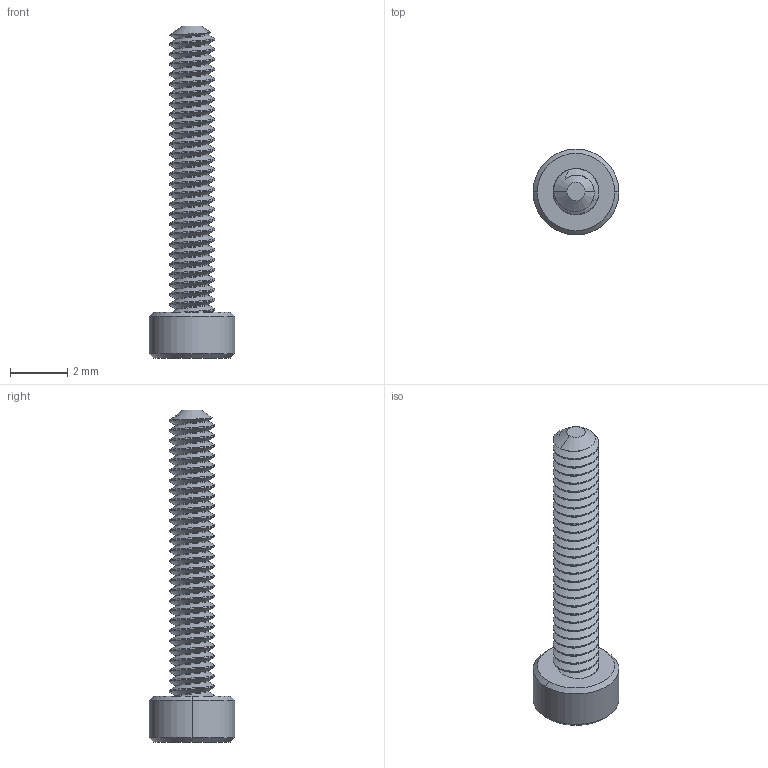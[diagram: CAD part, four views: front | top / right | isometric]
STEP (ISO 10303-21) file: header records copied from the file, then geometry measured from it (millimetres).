
FILE_DESCRIPTION (( 'STEP AP203' ), '1' );
FILE_NAME ('SOCKET HEAD CAP SCREW M1.6 x 0.35 mm Thread 10 mm Long.STEP', '2017-03-06T13:50:03', ( 'itdept' ), ( '' ), 'SwSTEP 2.0', 'SolidWorks 2016', '' );
FILE_SCHEMA (( 'CONFIG_CONTROL_DESIGN' ));
Length unit declared in the file: millimetre
Products named in the file (1): SOCKET HEAD CAP SCREW M1.6 x 0.35 mm Thread 10 mm Long
Bounding box: 3 x 3 x 11.6 mm (x, y, z)
Volume: 23.7 mm3; surface area: 107 mm2
Topology: 1 solids, 1 shells, 140 faces, 392 edges, 256 vertices
Faces by surface type: cylinder 115, cone 13, plane 10, bspline 2
Entity records: 7131 total; most frequent: CARTESIAN_POINT 4146, ORIENTED_EDGE 784, DIRECTION 452, EDGE_CURVE 392, VERTEX_POINT 256, AXIS2_PLACEMENT_3D 160, EDGE_LOOP 142, FACE_OUTER_BOUND 140
